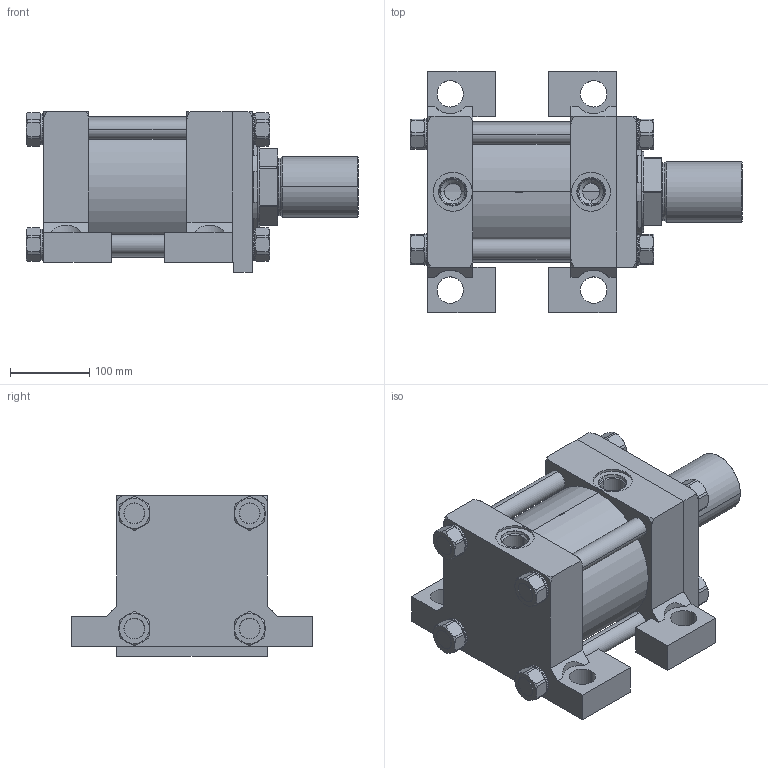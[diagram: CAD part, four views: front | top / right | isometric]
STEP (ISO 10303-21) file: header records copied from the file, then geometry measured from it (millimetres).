
FILE_DESCRIPTION (( 'STEP AP214' ), '1' );
FILE_NAME ('6.00CP2HHNAT124A2.000.step', '2026-03-26T21:15:42', ( '' ), ( '' ), 'SwSTEP 2.0', 'SolidWorks 2023', '' );
FILE_SCHEMA (( 'AUTOMOTIVE_DESIGN' ));
Length unit declared in the file: inch
Products named in the file (1): 6.00CP2HHNAT124A2.000
Bounding box: 419.1 x 304.8 x 203.2 mm (x, y, z)
Volume: 9024665.4 mm3; surface area: 990522.1 mm2
Topology: 44 solids, 44 shells, 1219 faces, 3145 edges, 2022 vertices
Faces by surface type: plane 795, cylinder 221, cone 161, bspline 34, torus 8
Entity records: 55144 total; most frequent: CARTESIAN_POINT 10957, ORIENTED_EDGE 6290, DIRECTION 5161, EDGE_CURVE 3145, VERTEX_POINT 2022, AXIS2_PLACEMENT_3D 1748, VECTOR 1665, LINE 1665
